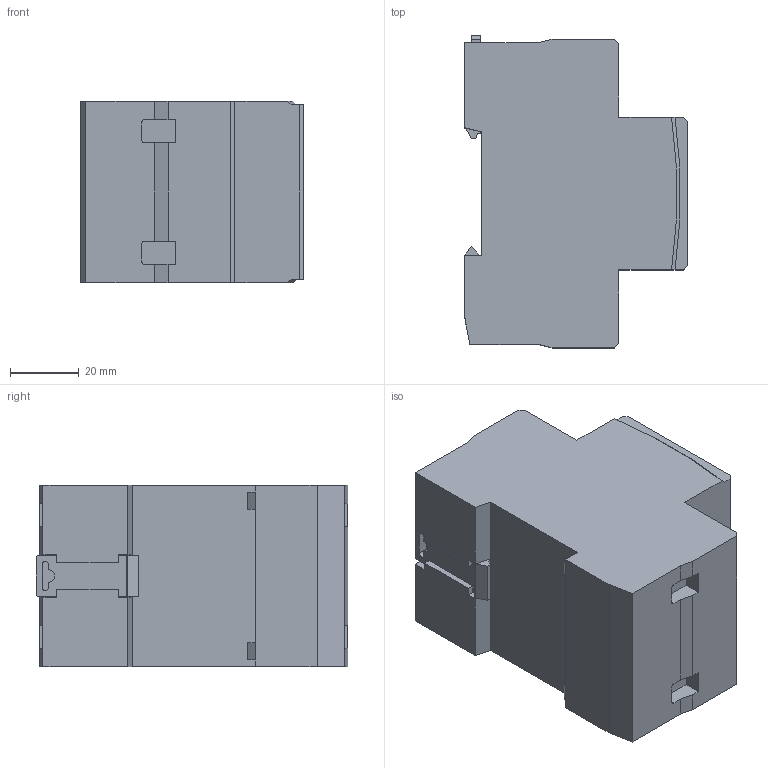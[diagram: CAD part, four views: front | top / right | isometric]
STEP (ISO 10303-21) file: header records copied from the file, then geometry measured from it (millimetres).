
FILE_DESCRIPTION (( 'STEP AP203' ), '1' );
FILE_NAME ('Ðåëå íàïðÿæåíèÿ è òîêà RV-1IU.STEP', '2021-11-25T20:46:49', ( '' ), ( '' ), 'SwSTEP 2.0', 'SolidWorks 2017', '' );
FILE_SCHEMA (( 'CONFIG_CONTROL_DESIGN' ));
Length unit declared in the file: millimetre
Products named in the file (1): Ðåëå íàïðÿæåíèÿ è òîêà RV-1IU
Bounding box: 65 x 91 x 53 mm (x, y, z)
Volume: 245715.5 mm3; surface area: 28808.6 mm2
Topology: 6 solids, 6 shells, 231 faces, 611 edges, 406 vertices
Faces by surface type: plane 166, cylinder 54, torus 8, cone 3
Entity records: 7222 total; most frequent: CARTESIAN_POINT 1261, ORIENTED_EDGE 1222, DIRECTION 1209, EDGE_CURVE 611, LINE 469, VECTOR 469, VERTEX_POINT 406, AXIS2_PLACEMENT_3D 370
